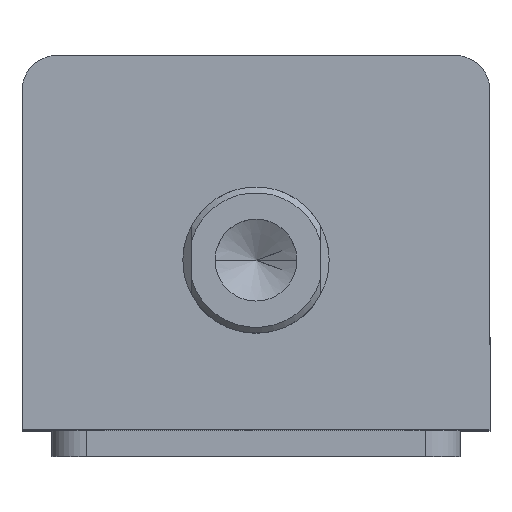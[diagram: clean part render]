
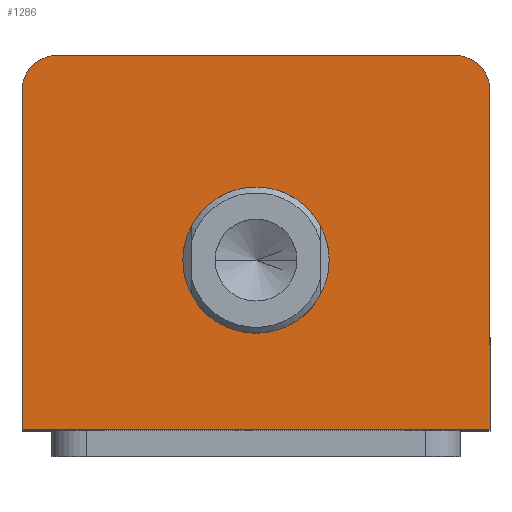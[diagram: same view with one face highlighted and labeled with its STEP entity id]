
A CAD part, top view. The second image highlights one B-rep face of the part: STEP entity #1286.
In plain terms, the highlighted planar face has unit normal (0, 0, 1).
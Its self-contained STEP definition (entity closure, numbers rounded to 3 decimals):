
#14 = DIRECTION ( 'NONE',  ( 0., 0., 1. ) ) ;
#49 = DIRECTION ( 'NONE',  ( 1., 0., 0. ) ) ;
#50 = CARTESIAN_POINT ( 'NONE',  ( 0., -3., 135. ) ) ;
#247 = EDGE_CURVE ( 'NONE', #2260, #2255, #1776, .T. ) ;
#343 = CARTESIAN_POINT ( 'NONE',  ( -12.5, -3., 135. ) ) ;
#347 = CARTESIAN_POINT ( 'NONE',  ( 12.5, -3., 135. ) ) ;
#377 = CARTESIAN_POINT ( 'NONE',  ( -40., -32., 135. ) ) ;
#382 = CARTESIAN_POINT ( 'NONE',  ( 40., -32., 135. ) ) ;
#401 = CARTESIAN_POINT ( 'NONE',  ( -40., 26., 135. ) ) ;
#411 = CARTESIAN_POINT ( 'NONE',  ( 40., 26., 135. ) ) ;
#508 = CARTESIAN_POINT ( 'NONE',  ( 34., 32., 135. ) ) ;
#517 = CARTESIAN_POINT ( 'NONE',  ( -34., 32., 135. ) ) ;
#531 = DIRECTION ( 'NONE',  ( 1., 0., 0. ) ) ;
#536 = DIRECTION ( 'NONE',  ( 0., 0., 1. ) ) ;
#551 = CARTESIAN_POINT ( 'NONE',  ( 0., 0., 135. ) ) ;
#557 = PLANE ( 'NONE',  #1734 ) ;
#638 = ORIENTED_EDGE ( 'NONE', *, *, #679, .T. ) ;
#639 = ORIENTED_EDGE ( 'NONE', *, *, #2756, .T. ) ;
#640 = ORIENTED_EDGE ( 'NONE', *, *, #3296, .T. ) ;
#641 = ORIENTED_EDGE ( 'NONE', *, *, #692, .T. ) ;
#642 = ORIENTED_EDGE ( 'NONE', *, *, #688, .T. ) ;
#643 = ORIENTED_EDGE ( 'NONE', *, *, #247, .T. ) ;
#644 = ORIENTED_EDGE ( 'NONE', *, *, #3582, .F. ) ;
#645 = ORIENTED_EDGE ( 'NONE', *, *, #706, .F. ) ;
#679 = EDGE_CURVE ( 'NONE', #2340, #2260, #1827, .T. ) ;
#688 = EDGE_CURVE ( 'NONE', #2255, #2348, #1837, .T. ) ;
#692 = EDGE_CURVE ( 'NONE', #2348, #2368, #1843, .T. ) ;
#706 = EDGE_CURVE ( 'NONE', #2392, #2403, #1869, .T. ) ;
#783 = DIRECTION ( 'NONE',  ( 0., -1., 0. ) ) ;
#821 = CARTESIAN_POINT ( 'NONE',  ( 34., 26., 135. ) ) ;
#823 = DIRECTION ( 'NONE',  ( 0., 0., 1. ) ) ;
#824 = DIRECTION ( 'NONE',  ( 1., 0., 0. ) ) ;
#927 = DIRECTION ( 'NONE',  ( 0., 0., 1. ) ) ;
#928 = CARTESIAN_POINT ( 'NONE',  ( -34., 26., 135. ) ) ;
#944 = DIRECTION ( 'NONE',  ( 1., 0., 0. ) ) ;
#955 = CARTESIAN_POINT ( 'NONE',  ( -40., 32., 135. ) ) ;
#961 = DIRECTION ( 'NONE',  ( -1., 0., 0. ) ) ;
#988 = DIRECTION ( 'NONE',  ( 1., 0., 0. ) ) ;
#989 = DIRECTION ( 'NONE',  ( 0., 0., 1. ) ) ;
#990 = CARTESIAN_POINT ( 'NONE',  ( 0., -3., 135. ) ) ;
#1045 = CARTESIAN_POINT ( 'NONE',  ( -40., 32., 135. ) ) ;
#1101 = AXIS2_PLACEMENT_3D ( 'NONE', #990, #989, #988 ) ;
#1103 = AXIS2_PLACEMENT_3D ( 'NONE', #928, #927, #944 ) ;
#1120 = AXIS2_PLACEMENT_3D ( 'NONE', #821, #823, #824 ) ;
#1286 = ADVANCED_FACE ( 'NONE', ( #1364, #1368 ), #557, .T. ) ;
#1364 = FACE_BOUND ( 'NONE', #3201, .T. ) ;
#1368 = FACE_OUTER_BOUND ( 'NONE', #3211, .T. ) ;
#1503 = LINE ( 'NONE', #2844, #1506 ) ;
#1506 = VECTOR ( 'NONE', #2842, 1000. ) ;
#1544 = LINE ( 'NONE', #2775, #1547 ) ;
#1547 = VECTOR ( 'NONE', #2774, 1000. ) ;
#1566 = CIRCLE ( 'NONE', #2526, 12.5 ) ;
#1734 = AXIS2_PLACEMENT_3D ( 'NONE', #551, #536, #531 ) ;
#1776 = LINE ( 'NONE', #955, #1790 ) ;
#1790 = VECTOR ( 'NONE', #961, 1000. ) ;
#1827 = CIRCLE ( 'NONE', #1120, 6. ) ;
#1837 = CIRCLE ( 'NONE', #1103, 6. ) ;
#1843 = LINE ( 'NONE', #1045, #1846 ) ;
#1846 = VECTOR ( 'NONE', #783, 1000. ) ;
#1869 = CIRCLE ( 'NONE', #1101, 12.5 ) ;
#2255 = VERTEX_POINT ( 'NONE', #517 ) ;
#2260 = VERTEX_POINT ( 'NONE', #508 ) ;
#2340 = VERTEX_POINT ( 'NONE', #411 ) ;
#2348 = VERTEX_POINT ( 'NONE', #401 ) ;
#2364 = VERTEX_POINT ( 'NONE', #382 ) ;
#2368 = VERTEX_POINT ( 'NONE', #377 ) ;
#2392 = VERTEX_POINT ( 'NONE', #347 ) ;
#2403 = VERTEX_POINT ( 'NONE', #343 ) ;
#2526 = AXIS2_PLACEMENT_3D ( 'NONE', #50, #14, #49 ) ;
#2756 = EDGE_CURVE ( 'NONE', #2364, #2340, #1503, .T. ) ;
#2774 = DIRECTION ( 'NONE',  ( 1., 0., 0. ) ) ;
#2775 = CARTESIAN_POINT ( 'NONE',  ( -40., -32., 135. ) ) ;
#2842 = DIRECTION ( 'NONE',  ( 0., 1., 0. ) ) ;
#2844 = CARTESIAN_POINT ( 'NONE',  ( 40., 32., 135. ) ) ;
#3201 = EDGE_LOOP ( 'NONE', ( #645, #644 ) ) ;
#3211 = EDGE_LOOP ( 'NONE', ( #643, #642, #641, #640, #639, #638 ) ) ;
#3296 = EDGE_CURVE ( 'NONE', #2368, #2364, #1544, .T. ) ;
#3582 = EDGE_CURVE ( 'NONE', #2403, #2392, #1566, .T. ) ;
